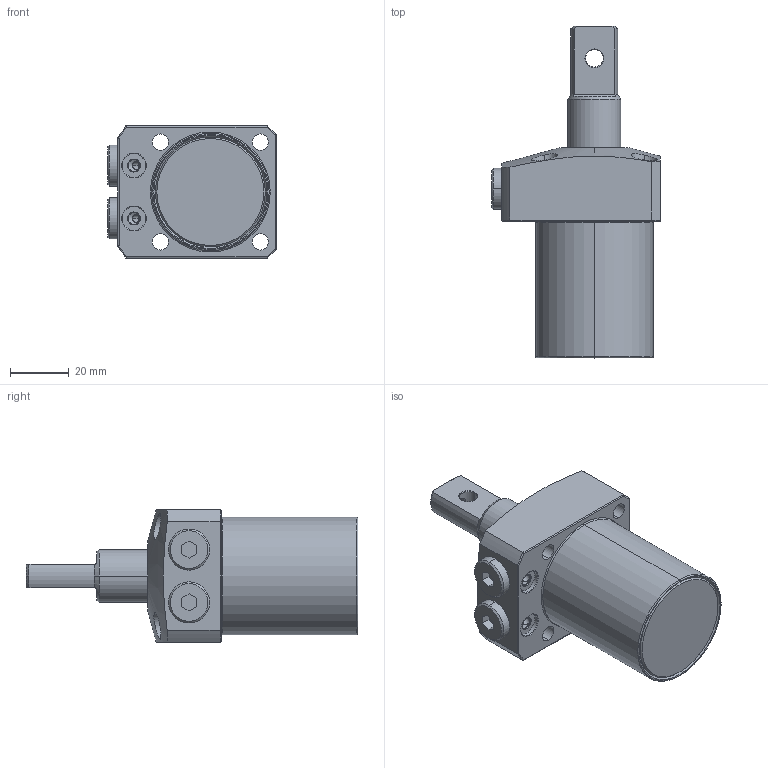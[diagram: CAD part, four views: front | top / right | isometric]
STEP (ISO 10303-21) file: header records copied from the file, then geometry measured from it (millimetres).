
FILE_DESCRIPTION(/* description */ (''),/* implementation_level */ '2;1');
FILE_NAME(/* name */ 'KTRC40-P.stp',/* time_stamp */ '2022-11-17T15:33:55+08:00',/* author */ (''),/* organization */ (''),/* preprocessor_version */ 'ST-DEVELOPER v16.7',/* originating_system */ 'SIEMENS PLM Software NX 12.0',/* authorisation */ '');
FILE_SCHEMA (('AP203_CONFIGURATION_CONTROLLED_3D_DESIGN_OF_MECHANICAL_PARTS_AND_ASSEMBLIES_MIM_LF { 1 0 10303 403 2 1 2}'));
Length unit declared in the file: millimetre
Products named in the file (4): KTRC40-P-03; KTRC40-P-02; KTRC40-P-01; LHA0400-Cx-P_rev1_step
Assembly tree (4 placements, depth 2):
  LHA0400-Cx-P_rev1_step
    KTRC40-P-01
    KTRC40-P-02  x2
    KTRC40-P-03
Bounding box: 57.5 x 113 x 45 mm (x, y, z)
Volume: 117475.7 mm3; surface area: 21556.7 mm2
Topology: 4 solids, 4 shells, 160 faces, 377 edges, 237 vertices
Faces by surface type: cylinder 65, plane 48, cone 37, torus 10
Entity records: 5235 total; most frequent: CARTESIAN_POINT 1329, DIRECTION 746, ORIENTED_EDGE 698, EDGE_CURVE 349, AXIS2_PLACEMENT_3D 307, VERTEX_POINT 219, EDGE_LOOP 174, CIRCLE 155
